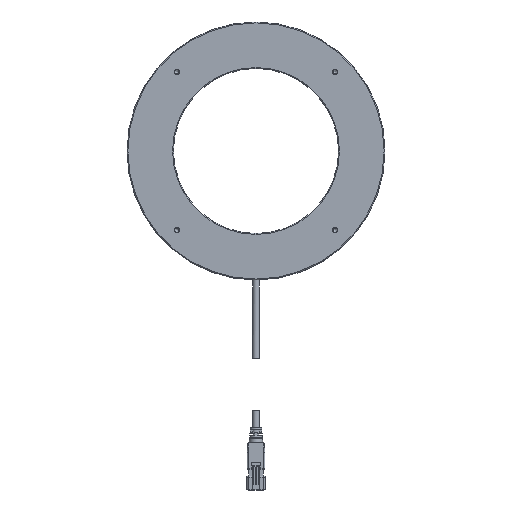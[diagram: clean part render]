
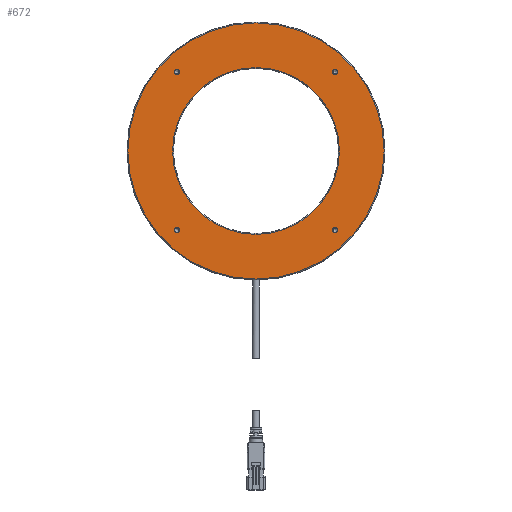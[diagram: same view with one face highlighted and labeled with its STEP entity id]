
A CAD part, top view. The second image highlights one B-rep face of the part: STEP entity #672.
In plain terms, the highlighted planar face has unit normal (0, 0, 1).
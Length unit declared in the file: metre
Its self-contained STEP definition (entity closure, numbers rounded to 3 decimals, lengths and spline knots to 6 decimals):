
#672=ADVANCED_FACE('NONE',(#1902,#1903,#1904,#1905,#1906,#1907),#1908,.F.);
#1902=FACE_BOUND('',#3608,.T.);
#1903=FACE_OUTER_BOUND('',#3609,.T.);
#1904=FACE_BOUND('',#3610,.T.);
#1905=FACE_BOUND('',#3611,.T.);
#1906=FACE_BOUND('',#3612,.T.);
#1907=FACE_BOUND('',#3613,.T.);
#1908=PLANE('',#3614);
#3608=EDGE_LOOP('',(#7183));
#3609=EDGE_LOOP('',(#7184));
#3610=EDGE_LOOP('',(#7185));
#3611=EDGE_LOOP('',(#7186));
#3612=EDGE_LOOP('',(#7187));
#3613=EDGE_LOOP('',(#7188));
#3614=AXIS2_PLACEMENT_3D('',#7189,#7190,#7191);
#7183=ORIENTED_EDGE('',*,*,#9335,.T.);
#7184=ORIENTED_EDGE('',*,*,#9337,.T.);
#7185=ORIENTED_EDGE('',*,*,#9338,.F.);
#7186=ORIENTED_EDGE('',*,*,#9339,.F.);
#7187=ORIENTED_EDGE('',*,*,#9340,.F.);
#7188=ORIENTED_EDGE('',*,*,#9341,.F.);
#7189=CARTESIAN_POINT('',(0.0,0.054,0.028));
#7190=DIRECTION('',(0.0,0.,-1.0));
#7191=DIRECTION('',(1.0,0.0,0.0));
#9335=EDGE_CURVE('2:146',#9571,#9571,#9572,.T.);
#9337=EDGE_CURVE('1:38039',#9574,#9574,#9575,.F.);
#9338=EDGE_CURVE('NONE',#9576,#9576,#9577,.T.);
#9339=EDGE_CURVE('NONE',#9578,#9578,#9579,.T.);
#9340=EDGE_CURVE('NONE',#9580,#9580,#9581,.T.);
#9341=EDGE_CURVE('NONE',#9582,#9582,#9583,.T.);
#9571=VERTEX_POINT('',#9839);
#9572=CIRCLE('',#9840,0.0485);
#9574=VERTEX_POINT('',#9842);
#9575=CIRCLE('',#9843,0.0745);
#9576=VERTEX_POINT('',#9844);
#9577=CIRCLE('',#9845,0.001525);
#9578=VERTEX_POINT('',#9846);
#9579=CIRCLE('',#9847,0.001525);
#9580=VERTEX_POINT('',#9848);
#9581=CIRCLE('',#9849,0.001525);
#9582=VERTEX_POINT('',#9850);
#9583=CIRCLE('',#9851,0.001525);
#9839=CARTESIAN_POINT('',(0.0,0.1025,0.028));
#9840=AXIS2_PLACEMENT_3D('',#10151,#10152,#10153);
#9842=CARTESIAN_POINT('',(0.,0.1285,0.028));
#9843=AXIS2_PLACEMENT_3D('',#10154,#10155,#10156);
#9844=CARTESIAN_POINT('',(-0.047487,0.099962,0.028));
#9845=AXIS2_PLACEMENT_3D('',#10157,#10158,#10159);
#9846=CARTESIAN_POINT('',(0.044437,0.099962,0.028));
#9847=AXIS2_PLACEMENT_3D('',#10160,#10161,#10162);
#9848=CARTESIAN_POINT('',(0.044437,0.008038,0.028));
#9849=AXIS2_PLACEMENT_3D('',#10163,#10164,#10165);
#9850=CARTESIAN_POINT('',(-0.047487,0.008038,0.028));
#9851=AXIS2_PLACEMENT_3D('',#10166,#10167,#10168);
#10151=CARTESIAN_POINT('',(0.0,0.054,0.028));
#10152=DIRECTION('',(0.0,0.,-1.0));
#10153=DIRECTION('',(0.0,1.0,0.));
#10154=CARTESIAN_POINT('',(0.0,0.054,0.028));
#10155=DIRECTION('',(0.0,0.,-1.0));
#10156=DIRECTION('',(0.0,1.0,0.));
#10157=CARTESIAN_POINT('',(-0.045962,0.099962,0.028));
#10158=DIRECTION('',(0.0,0.,1.0));
#10159=DIRECTION('',(-1.0,-0.0,0.0));
#10160=CARTESIAN_POINT('',(0.045962,0.099962,0.028));
#10161=DIRECTION('',(0.0,0.,1.0));
#10162=DIRECTION('',(-1.0,-0.0,0.0));
#10163=CARTESIAN_POINT('',(0.045962,0.008038,0.028));
#10164=DIRECTION('',(0.0,0.,1.0));
#10165=DIRECTION('',(-1.0,-0.0,0.0));
#10166=CARTESIAN_POINT('',(-0.045962,0.008038,0.028));
#10167=DIRECTION('',(0.0,0.,1.0));
#10168=DIRECTION('',(-1.0,-0.0,0.0));
